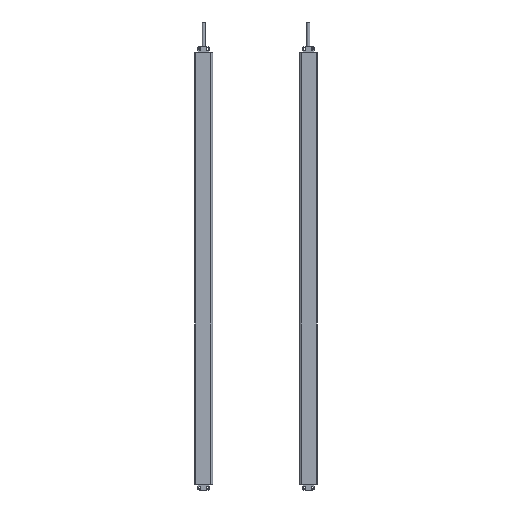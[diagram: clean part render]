
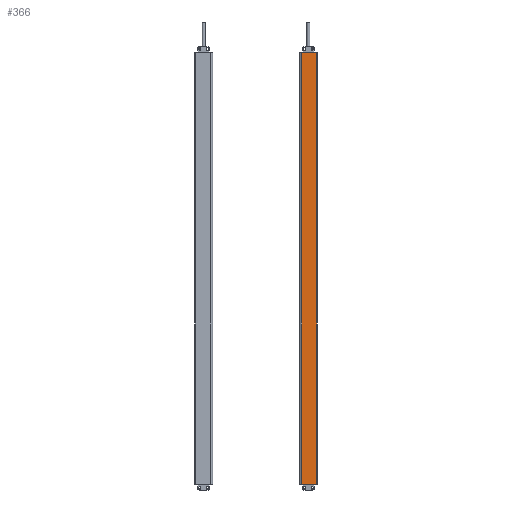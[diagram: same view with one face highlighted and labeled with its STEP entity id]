
A CAD part, front view. The second image highlights one B-rep face of the part: STEP entity #366.
In plain terms, the highlighted planar face has unit normal (0, -1, 0).
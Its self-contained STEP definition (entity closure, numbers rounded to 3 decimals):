
#123=PLANE('',#5869);
#366=ADVANCED_FACE('',(#797),#123,.T.);
#797=FACE_OUTER_BOUND('',#1073,.T.);
#1073=EDGE_LOOP('',(#1780,#1781,#1782,#1783));
#1780=ORIENTED_EDGE('',*,*,#3977,.T.);
#1781=ORIENTED_EDGE('',*,*,#3978,.F.);
#1782=ORIENTED_EDGE('',*,*,#3979,.F.);
#1783=ORIENTED_EDGE('',*,*,#3903,.T.);
#3351=VERTEX_POINT('',#8106);
#3352=VERTEX_POINT('',#8108);
#3421=VERTEX_POINT('',#8253);
#3422=VERTEX_POINT('',#8257);
#3903=EDGE_CURVE('',#3352,#3351,#4726,.T.);
#3977=EDGE_CURVE('',#3351,#3421,#4771,.T.);
#3978=EDGE_CURVE('',#3422,#3421,#4772,.T.);
#3979=EDGE_CURVE('',#3352,#3422,#4773,.T.);
#4726=LINE('',#8107,#5280);
#4771=LINE('',#8254,#5325);
#4772=LINE('',#8256,#5326);
#4773=LINE('',#8258,#5327);
#5280=VECTOR('',#6413,1.);
#5325=VECTOR('',#6522,1.);
#5326=VECTOR('',#6525,1.);
#5327=VECTOR('',#6526,1.);
#5869=AXIS2_PLACEMENT_3D('',#8259,#6527,#6528);
#6413=DIRECTION('',(1.,0.,0.));
#6522=DIRECTION('',(0.,0.,1.));
#6525=DIRECTION('',(1.,0.,0.));
#6526=DIRECTION('',(0.,0.,1.));
#6527=DIRECTION('',(0.,-1.,0.));
#6528=DIRECTION('',(1.,0.,0.));
#8106=CARTESIAN_POINT('',(3.35,-1.3,-100.));
#8107=CARTESIAN_POINT('',(-21.15,-1.3,-100.));
#8108=CARTESIAN_POINT('',(-21.15,-1.3,-100.));
#8253=CARTESIAN_POINT('',(3.35,-1.3,602.));
#8254=CARTESIAN_POINT('',(3.35,-1.3,-100.));
#8256=CARTESIAN_POINT('',(-4122.897,-1.3,602.));
#8257=CARTESIAN_POINT('',(-21.15,-1.3,602.));
#8258=CARTESIAN_POINT('',(-21.15,-1.3,-100.));
#8259=CARTESIAN_POINT('',(-21.15,-1.3,-100.));
